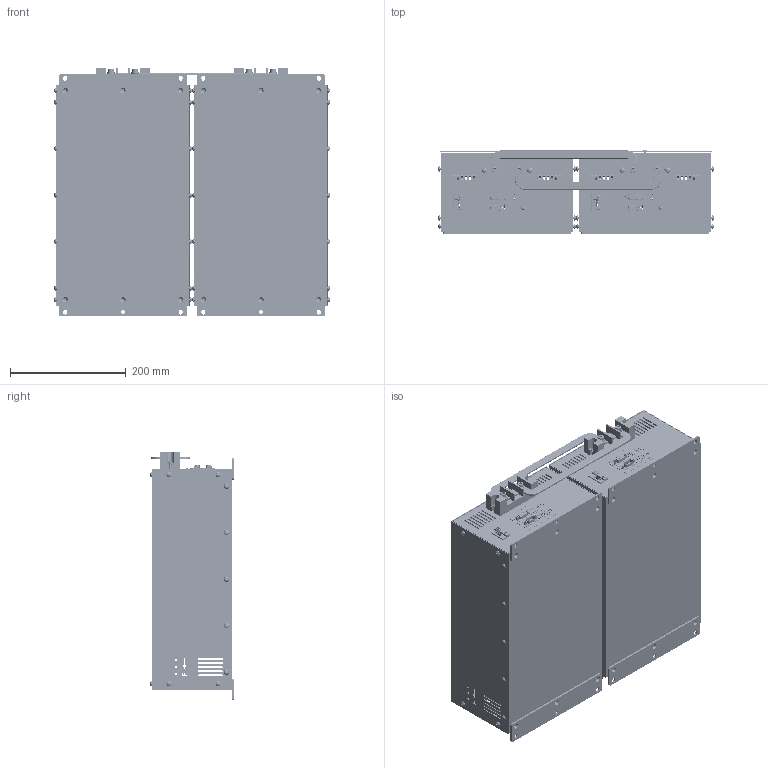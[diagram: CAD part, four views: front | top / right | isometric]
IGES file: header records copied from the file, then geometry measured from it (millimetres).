
Global section: file name: X3COM-BUSBAR; native system: Autodesk Inventor 2021; preprocessor: unknown; author: eunsol jang; date: 20230825.151112; units: inch
Bounding box: 477.84 x 145.97 x 431 mm (x, y, z)
Volume: 1371315.1 mm3; surface area: 1704969.4 mm2
Topology: 13 solids, 13 shells, 9886 faces, 26908 edges, 17718 vertices
Faces by surface type: bspline 9886
